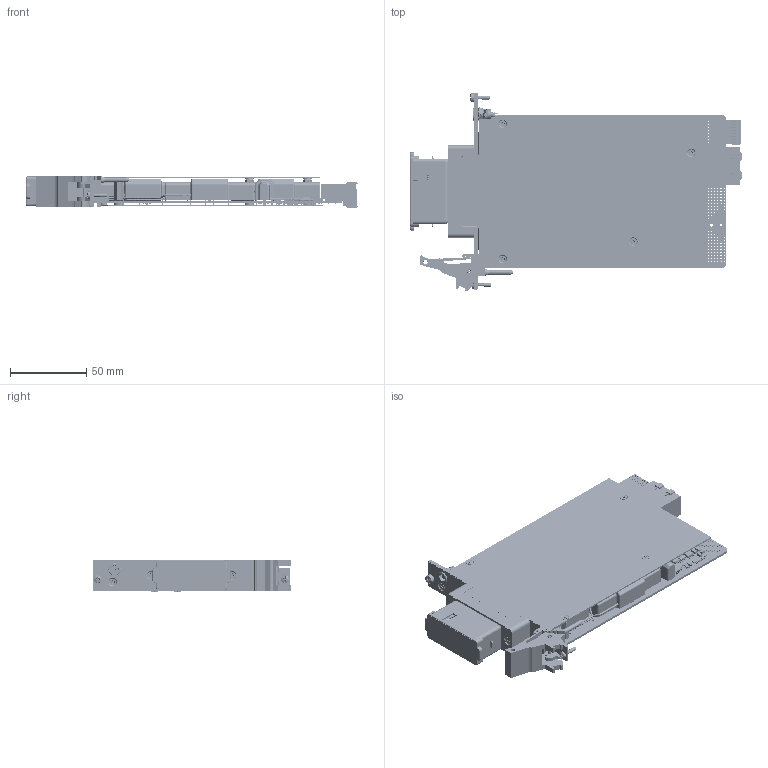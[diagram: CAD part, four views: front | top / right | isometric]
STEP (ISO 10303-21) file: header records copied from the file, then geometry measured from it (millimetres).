
FILE_DESCRIPTION (( 'STEP AP214' ), '1' );
FILE_NAME ('42-323-701-HI PXIe HV General Purpose 14xSPST Module.STEP', '2026-01-07T08:58:40', ( '' ), ( '' ), 'SwSTEP 2.0', 'SolidWorks 2025', '' );
FILE_SCHEMA (( 'AUTOMOTIVE_DESIGN' ));
Length unit declared in the file: millimetre
Products named in the file (143): A-FP-1084-HI  PXI HV General Purpose SPST Front Panel; Cable^C6_42-323-701-HI PXIe HV General Purpose 14xSPST Module; C-CN-1425 51-way Redel S-series Panel mm; C-SC-146 Dual Transistor SOT-14; Cable^C9_42-323-701-HI PXIe HV General Purpose 14xSPST Module; C-MS-803 BEAD 120R 0603 2A 0R05 25%; C-IC-425 SOICN 8PIN SD; Cable_2^A4_42-323-701-HI PXIe HV General Purpose 14xSPST Module; C-CP-130 CAP 1uF CERAMIC SMT 0603; Cable_1^A14_42-323-701-HI PXIe HV General Purpose 14xSPST Module; A12^42-323-701-HI PXIe HV General Purpose 14xSPST Module; Cable^A9_42-323-701-HI PXIe HV General Purpose 14xSPST Module; A7^42-323-701-HI PXIe HV General Purpose 14xSPST Module; C-IC-158 Buffer 3-State SOT-23 5-Pin; C11^42-323-701-HI PXIe HV General Purpose 14xSPST Module; A-PC-1390-HI-PXIe HV General Purpose 14xSPST Mother; A14^42-323-701-HI PXIe HV General Purpose 14xSPST Module; C-FX-165 Handle Finger; C-CN-1610 1x4-Way PICOBLADE Cable Assembly ST F; A6^42-323-701-HI PXIe HV General Purpose 14xSPST Module; C13^42-323-701-HI PXIe HV General Purpose 14xSPST Module; Cable^C12_42-323-701-HI PXIe HV General Purpose 14xSPST Module; C-FX-165 CPCI Ejector Handle; C-FX-165 Handle Pin; C-CN-1071; 42-323-701-HI PXIe HV General Purpose 14xSPST Module; C-SC-168 SOT363 Complementary MOSFET 20V-8V; C9^42-323-701-HI PXIe HV General Purpose 14xSPST Module; C-RS-659 RES NW 4K7 4RES 8PINS SMT1206; C2^42-323-701-HI PXIe HV General Purpose 14xSPST Module; C-FX-1181 Low Profile L Shaped Reversed Mounting Block; A-MS-1183 51-Way HV Safety Cap; Cable^C10_42-323-701-HI PXIe HV General Purpose 14xSPST Module; C-SC-222 DIODE Unidorectional TVS 15V 25A; L-FP-1084-B  PXI HV General Purpose SPST FP Label; C-RS-148 Res 1K 0603 1-16W 1% 100PPM; A-PC-1390-HI-PXIe-# HV General Purpose 14xSPST Mother; Cable^C13_42-323-701-HI PXIe HV General Purpose 14xSPST Module; C-FX-1086 Screw, M2.5x14, CSK HD, Pozi, A2 St Steel, Thread Locking; C-CN-107-PIN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
Assembly tree (365 placements, depth 5):
  42-323-701-HI PXIe HV General Purpose 14xSPST Module
    A-PC-1390-HI-PXIe HV General Purpose 14xSPST Mother
      A-PC-1390-HI-PXIe-# HV General Purpose 14xSPST Mother
        C-PC-1390 HV General Purpose SPST Mother
        C-RS-190 Res 0R0 SIZE 0603 SMT  x3
        C-MS-803 BEAD 120R 0603 2A 0R05 25%  x18
        C-SC-222 DIODE Unidorectional TVS 15V 25A  x14
        C-CP-255 CAPACITOR 10nF SMT 0402  x42
        0402 SD_CCP241  x14
        C-CN-1609 1x4-Way PICBLADE ST M Header
        C-CP-141 CAP 10UF 1206 35V X5R 10%  x4
        C-CP-034  x22
        C-IC-158 Buffer 3-State SOT-23 5-Pin
        C-IC-548 1-Bit Flip-Flop 8-Pin SM8
        C-IC-310 SOT353 SD
        C-SC-168 SOT363 Complementary MOSFET 20V-8V  x2
        C-IC-550 Voltage Difference Amplifier  x4
        C-RL-368 Flying Lead HV Relay 68-1-A12-2D_Wire Removed  x14
        C-RS-1487 RES 100k 0.1W 25PPM 0603
        C-RS-152 Res 10K 0603 1-16W 1% 300PPM  x9
        C-RS-147 Res 100R 0603 1-16W 1% 100PPM  x2
        C-SC-137 TVS DIODE ARRAY
        C-CP-033 Capacitor 10nF SMT 0603  x3
        C-CP-099 CAP 0.1uF 16V 0402 SMT  x14
        C-IC-489 F-RAM Semiconductor Serial-I2C FRAM Memory 512kbit 2-3.6 V 8-Pin SOIC
        C-IC-425 SOICN 8PIN SD
        C-IC-426 32-Flash Memory Standard Serial NOR 32Mbit SPI WSOIC-8
        C-IC-442 VSSOP 8PIN SD
        C-IC-458 LDO VOLTAGE REGULATOR 1.2V SOT  x2
        C-IC-369 FPGA 17000 Cells 65nm Technology 1.2V 256-Pin FTBGA
        C-RS-148 Res 1K 0603 1-16W 1% 100PPM  x2
        C-RS-659 RES NW 4K7 4RES 8PINS SMT1206  x4
        C-RS-521 Res 120R (0603) 1-16W 1% 100pp
        C-SC-146 Dual Transistor SOT-14  x2
        C-CN-1071
          C-CN-107-BODY
          C-CN-107-PIN  x8
        C-CP-124 CAP 10nF CERAMIC SMT 0402  x29
        C-CP-130 CAP 1uF CERAMIC SMT 0603  x4
        C-CP-175 CAP 22uF 1206 25V X5R 10%  x4
        C-CP-139 CAP 4.7UF 1206 16V X7R 10%  x4
        C-CP-239  Power Line Filter  x2
        C-CN-1116 40 WAY PXIE XJ4 TYPE B8 RA F
          C-CN-1116-Body 40 WAY PXIE XJ4 TYPE B8 RA F
          C-CN-1116-Shield 40 WAY PXIE XJ4 TYPE B8 RA F
        C-CN-1422 PXIE XJ3 RA F TH SD ASSY
          C-CN-1422-BODY PXIE XJ3 RA F TH SD
    A-FP-1084-HI-L1  PXI HV General Purpose SPST FP Assy
      A-FP-1084-HI  PXI HV General Purpose SPST Front Panel
        C-FP-1084-HI  PXI HV General Purpose SPST Front Panel
          C-BP-069 PXI 1-SLT 18.5mm Thick Blank Panel
        L-FP-1084-HI  PXI HV General Purpose SPST FP Label
          L-FP-1084-HI-#  PXI HV General Purpose SPST FP Label
        C-FX-958 M2.5 x 8mm Self Clinch Blind Standoff  x2
      A-FP-1084-B HV General Purpose SPST FP Fixing
        C-FP-1084-B  PXI HV General Purpose SPST FP Fixing
        L-FP-1084-B  PXI HV General Purpose SPST FP Label
          L-FP-1084-B-#  PXI HV General Purpose SPST FP Label
      Z-FX-2001 FP Fixing - Bush + Screw
        C-BK-026 Bush Front Panel Mounting
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Bounding box: 217.49 x 129.63 x 20.79 mm (x, y, z)
Volume: 194578.9 mm3; surface area: 220293.6 mm2
Topology: 321 solids, 373 shells, 22452 faces, 56775 edges, 36567 vertices
Faces by surface type: plane 13430, cylinder 5427, bspline 1733, torus 898, cone 730, sphere 234
Entity records: 605685 total; most frequent: CARTESIAN_POINT 221618, DIRECTION 60827, ORIENTED_EDGE 58706, EDGE_CURVE 29355, AXIS2_PLACEMENT_3D 21562, VERTEX_POINT 18874, LINE 17703, VECTOR 17703
